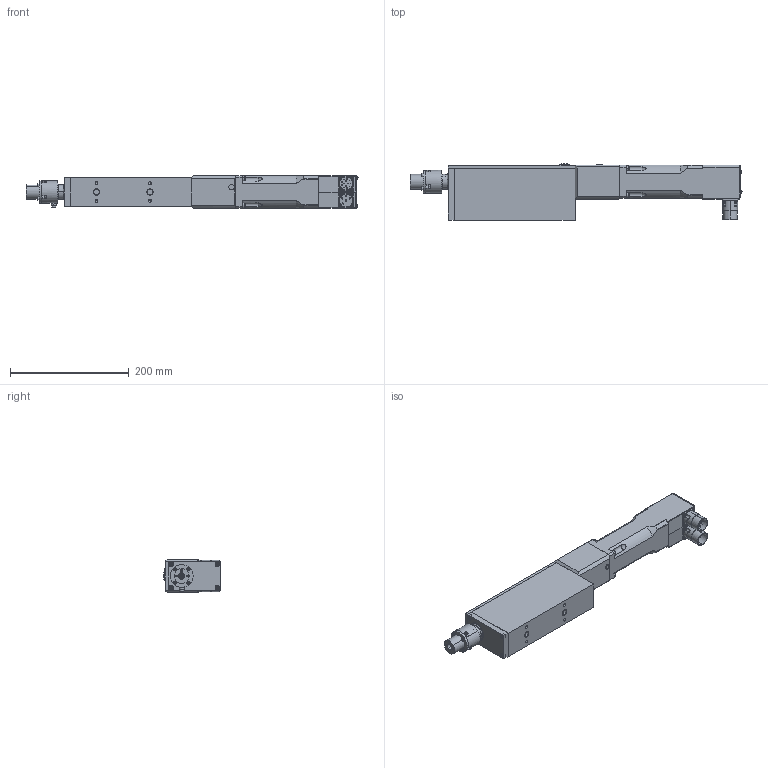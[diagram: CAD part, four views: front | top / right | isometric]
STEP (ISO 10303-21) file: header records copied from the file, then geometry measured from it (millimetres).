
FILE_DESCRIPTION (( 'STEP AP203' ), '1' );
FILE_NAME ('PR5ID010-010-040N.STEP', '2021-02-04T13:37:18', ( '' ), ( '' ), 'SwSTEP 2.0', 'SolidWorks 2016', '' );
FILE_SCHEMA (( 'CONFIG_CONTROL_DESIGN' ));
Length unit declared in the file: millimetre
Products named in the file (1): PR5ID010-010-040N
Bounding box: 558.09 x 95.58 x 55 mm (x, y, z)
Volume: 1533240.7 mm3; surface area: 280095 mm2
Topology: 29 solids, 41 shells, 2194 faces, 5113 edges, 3038 vertices
Faces by surface type: plane 1023, cylinder 612, cone 416, bspline 82, torus 48, sphere 13
Entity records: 64935 total; most frequent: CARTESIAN_POINT 15891, DIRECTION 10408, ORIENTED_EDGE 9882, EDGE_CURVE 4941, AXIS2_PLACEMENT_3D 3993, VERTEX_POINT 3025, EDGE_LOOP 2510, VECTOR 2422
